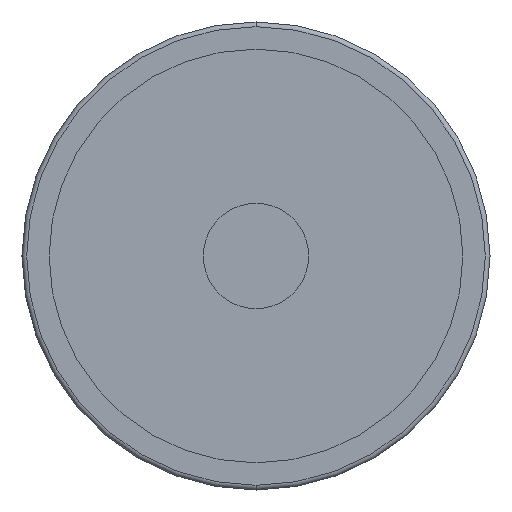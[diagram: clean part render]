
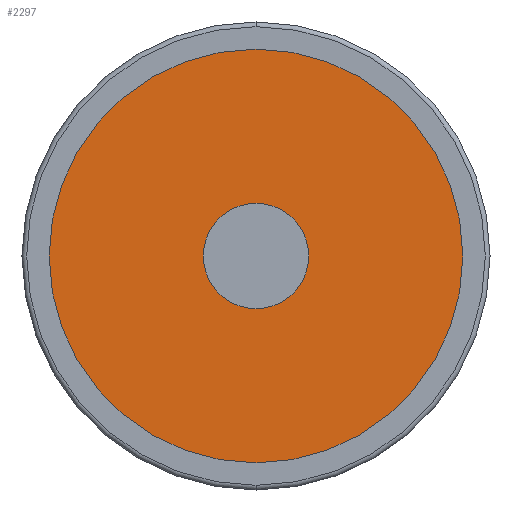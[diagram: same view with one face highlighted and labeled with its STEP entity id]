
A CAD part, front view. The second image highlights one B-rep face of the part: STEP entity #2297.
In plain terms, the highlighted planar face has unit normal (0, -1, 0).
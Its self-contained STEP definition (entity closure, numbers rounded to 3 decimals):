
#39 = DIRECTION ( 'NONE',  ( 0., -1., 0. ) ) ;
#46 = VERTEX_POINT ( 'NONE', #1993 ) ;
#65 = CIRCLE ( 'NONE', #1328, 44.3 ) ;
#104 = EDGE_CURVE ( 'NONE', #630, #46, #1164, .T. ) ;
#253 = FACE_BOUND ( 'NONE', #488, .T. ) ;
#477 = DIRECTION ( 'NONE',  ( 0., -1., 0. ) ) ;
#488 = EDGE_LOOP ( 'NONE', ( #1729, #825 ) ) ;
#489 = EDGE_CURVE ( 'NONE', #46, #630, #65, .T. ) ;
#531 = CARTESIAN_POINT ( 'NONE',  ( 0., 4.5, 0. ) ) ;
#592 = EDGE_CURVE ( 'NONE', #736, #2320, #1441, .T. ) ;
#630 = VERTEX_POINT ( 'NONE', #2180 ) ;
#636 = FACE_OUTER_BOUND ( 'NONE', #1926, .T. ) ;
#708 = DIRECTION ( 'NONE',  ( 0., -1., 0. ) ) ;
#736 = VERTEX_POINT ( 'NONE', #2379 ) ;
#795 = CARTESIAN_POINT ( 'NONE',  ( 0., 4.5, 0. ) ) ;
#807 = DIRECTION ( 'NONE',  ( 1., 0., 0. ) ) ;
#825 = ORIENTED_EDGE ( 'NONE', *, *, #1506, .F. ) ;
#882 = PLANE ( 'NONE',  #2217 ) ;
#1103 = AXIS2_PLACEMENT_3D ( 'NONE', #531, #477, #1251 ) ;
#1140 = DIRECTION ( 'NONE',  ( 0., -1., 0. ) ) ;
#1164 = CIRCLE ( 'NONE', #2313, 44.3 ) ;
#1199 = CARTESIAN_POINT ( 'NONE',  ( -44.3, 4.5, 0. ) ) ;
#1240 = CARTESIAN_POINT ( 'NONE',  ( 0., 4.5, 0. ) ) ;
#1251 = DIRECTION ( 'NONE',  ( 1., 0., 0. ) ) ;
#1294 = CARTESIAN_POINT ( 'NONE',  ( 0., 4.5, 0. ) ) ;
#1328 = AXIS2_PLACEMENT_3D ( 'NONE', #795, #1947, #807 ) ;
#1390 = ORIENTED_EDGE ( 'NONE', *, *, #489, .T. ) ;
#1441 = CIRCLE ( 'NONE', #1563, 10.25 ) ;
#1506 = EDGE_CURVE ( 'NONE', #2320, #736, #2289, .T. ) ;
#1563 = AXIS2_PLACEMENT_3D ( 'NONE', #1240, #708, #1805 ) ;
#1565 = ORIENTED_EDGE ( 'NONE', *, *, #104, .T. ) ;
#1629 = CARTESIAN_POINT ( 'NONE',  ( -10.25, 4.5, 0. ) ) ;
#1729 = ORIENTED_EDGE ( 'NONE', *, *, #592, .F. ) ;
#1789 = DIRECTION ( 'NONE',  ( 1., 0., 0. ) ) ;
#1805 = DIRECTION ( 'NONE',  ( 1., 0., 0. ) ) ;
#1926 = EDGE_LOOP ( 'NONE', ( #1390, #1565 ) ) ;
#1947 = DIRECTION ( 'NONE',  ( 0., -1., 0. ) ) ;
#1993 = CARTESIAN_POINT ( 'NONE',  ( -44.3, 4.5, 0. ) ) ;
#2085 = DIRECTION ( 'NONE',  ( 1., 0., 0. ) ) ;
#2180 = CARTESIAN_POINT ( 'NONE',  ( 44.3, 4.5, 0. ) ) ;
#2217 = AXIS2_PLACEMENT_3D ( 'NONE', #1199, #39, #1789 ) ;
#2289 = CIRCLE ( 'NONE', #1103, 10.25 ) ;
#2297 = ADVANCED_FACE ( 'NONE', ( #636, #253 ), #882, .T. ) ;
#2313 = AXIS2_PLACEMENT_3D ( 'NONE', #1294, #1140, #2085 ) ;
#2320 = VERTEX_POINT ( 'NONE', #1629 ) ;
#2379 = CARTESIAN_POINT ( 'NONE',  ( 10.25, 4.5, 0. ) ) ;
